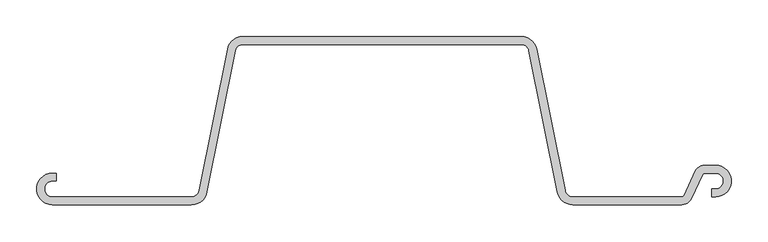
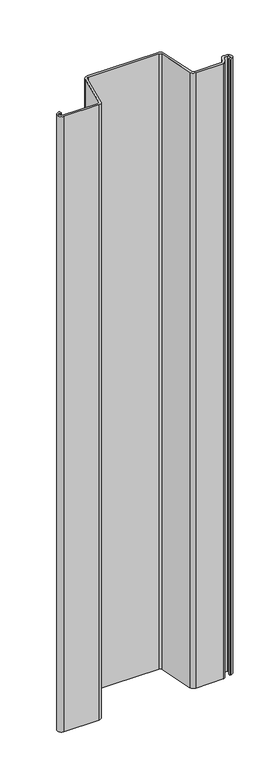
"""IFC4 building model written with IfcOpenShell, lengths in millimetres: proxy geometry, 鋼矢板10H型 : 鋼矢板10H型."""

from ifc_helpers import new_model, si_unit, point, frame, frame_2d, origin, place, context, project, spatial, polyline, circle_curve, trimmed, segment, composite_curve, outline, extrude, source, transform, mapped, element, save


def generic_models_7553901d(model_context):
    return source(origin(), model_context, "Body", "SweptSolid", [
        extrude(outline(composite_curve([segment(trimmed(circle_curve(frame_2d((409.1972607, -101.1142857)), 13.8857143), [point((421.7819917, -106.9826421))], [point((409.1972607, -115.0))], False, "CARTESIAN"), True, "CONTINUOUS"), segment(polyline([(409.1972607, -115.0), (260.2008232, -115.0)]), True, "CONTINUOUS"), segment(trimmed(circle_curve(frame_2d((260.2008232, -93.4)), 21.6), [point((260.2008232, -115.0))], [point((239.0202806, -97.6361085))], False, "CARTESIAN"), True, "CONTINUOUS"), segment(polyline([(239.0202806, -97.6361085), (200.3894481, 95.5180543)]), True, "CONTINUOUS"), segment(trimmed(circle_curve(frame_2d((189.7991768, 93.4)), 10.8), [point((200.3894481, 95.5180543))], [point((189.7991768, 104.2))], True, "CARTESIAN"), True, "CONTINUOUS"), segment(polyline([(189.7991768, 104.2), (-189.7991768, 104.2)]), True, "CONTINUOUS"), segment(trimmed(circle_curve(frame_2d((-189.7991768, 93.4)), 10.8), [point((-189.7991768, 104.2))], [point((-200.3894481, 95.5180543))], True, "CARTESIAN"), True, "CONTINUOUS"), segment(polyline([(-200.3894481, 95.5180543), (-239.0202806, -97.6361085)]), True, "CONTINUOUS"), segment(trimmed(circle_curve(frame_2d((-260.2008232, -93.4)), 21.6), [point((-239.0202806, -97.6361085))], [point((-260.2008232, -115.0))], False, "CARTESIAN"), True, "CONTINUOUS"), segment(polyline([(-260.2008232, -115.0), (-450.0, -115.0)]), True, "CONTINUOUS"), segment(trimmed(circle_curve(frame_2d((-450.0, -93.4)), 21.6), [point((-450.0, -115.0))], [point((-450.0, -71.8))], False, "CARTESIAN"), True, "CONTINUOUS"), segment(polyline([(-450.0, -71.8), (-445.0, -71.8), (-445.0, -82.6), (-450.0, -82.6)]), True, "CONTINUOUS"), segment(trimmed(circle_curve(frame_2d((-450.0, -93.4)), 10.8), [point((-450.0, -82.6))], [point((-450.0, -104.2))], True, "CARTESIAN"), True, "CONTINUOUS"), segment(polyline([(-450.0, -104.2), (-260.2008232, -104.2)]), True, "CONTINUOUS"), segment(trimmed(circle_curve(frame_2d((-260.2008232, -93.4)), 10.8), [point((-260.2008232, -104.2))], [point((-249.6105519, -95.5180543))], True, "CARTESIAN"), True, "CONTINUOUS"), segment(polyline([(-249.6105519, -95.5180543), (-210.9797194, 97.6361085)]), True, "CONTINUOUS"), segment(trimmed(circle_curve(frame_2d((-189.7991768, 93.4)), 21.6), [point((-210.9797194, 97.6361085))], [point((-189.7991768, 115.0))], False, "CARTESIAN"), True, "CONTINUOUS"), segment(polyline([(-189.7991768, 115.0), (189.7991768, 115.0)]), True, "CONTINUOUS"), segment(trimmed(circle_curve(frame_2d((189.7991768, 93.4)), 21.6), [point((189.7991768, 115.0))], [point((210.9797194, 97.6361085))], False, "CARTESIAN"), True, "CONTINUOUS"), segment(polyline([(210.9797194, 97.6361085), (249.6105519, -95.5180543)]), True, "CONTINUOUS"), segment(trimmed(circle_curve(frame_2d((260.2008232, -93.4)), 10.8), [point((249.6105519, -95.5180543))], [point((260.2008232, -104.2))], True, "CARTESIAN"), True, "CONTINUOUS"), segment(polyline([(260.2008232, -104.2), (409.1972607, -104.2)]), True, "CONTINUOUS"), segment(trimmed(circle_curve(frame_2d((409.1972607, -101.1142857)), 3.0857143), [point((409.1972607, -104.2))], [point((411.9938676, -102.4183649))], True, "CARTESIAN"), True, "CONTINUOUS"), segment(polyline([(411.9938676, -102.4183649), (427.569013, -69.0173579)]), True, "CONTINUOUS"), segment(trimmed(circle_curve(frame_2d((440.153744, -74.8857143)), 13.8857143), [point((427.569013, -69.0173579))], [point((440.153744, -61.0))], False, "CARTESIAN"), True, "CONTINUOUS"), segment(polyline([(440.153744, -61.0), (455.0, -61.0)]), True, "CONTINUOUS"), segment(trimmed(circle_curve(frame_2d((455.0, -82.6)), 21.6), [point((455.0, -61.0))], [point((455.0, -104.2))], False, "CARTESIAN"), True, "CONTINUOUS"), segment(polyline([(455.0, -104.2), (450.0, -104.2), (450.0, -93.4), (455.0, -93.4)]), True, "CONTINUOUS"), segment(trimmed(circle_curve(frame_2d((455.0, -82.6)), 10.8), [point((455.0, -93.4))], [point((455.0, -71.8))], True, "CARTESIAN"), True, "CONTINUOUS"), segment(polyline([(455.0, -71.8), (440.153744, -71.8)]), True, "CONTINUOUS"), segment(trimmed(circle_curve(frame_2d((440.153744, -74.8857143)), 3.0857143), [point((440.153744, -71.8))], [point((437.3571371, -73.5816351))], True, "CARTESIAN"), True, "CONTINUOUS"), segment(polyline([(437.3571371, -73.5816351), (421.7819917, -106.9826421)]), True, "CONTINUOUS")], self_intersect=False)), frame((0.0, 0.0, -3500.0), z_axis=(0.0, 0.0, 1.0), x_axis=(1.0, 0.0, 0.0)), (0.0, 0.0, 1.0), 3500.0),
    ])


if __name__ == "__main__":
    model = new_model("IFC4")
    model_context = context("Model", 3, world=origin())
    ifc_project = project(units=[si_unit("LENGTHUNIT", "METRE", prefix="MILLI")], contexts=[model_context])
    site = spatial("IfcSite", under=ifc_project)
    building = spatial("IfcBuilding", under=site)
    placement = place(None, origin())
    generic_models_shape = generic_models_7553901d(model_context)
    element("IfcBuildingElementProxy", 1, Name="鋼矢板10H型 : 鋼矢板10H型", ObjectType="鋼矢板10H型 : 鋼矢板10H型", at=placement, inside=building, context=model_context, shape_type="MappedRepresentation", body=[
        mapped(generic_models_shape, transform((0.0, 0.0, 0.0), x_axis=(1.0, 0.0, 0.0), y_axis=(0.0, 1.0, 0.0), z_axis=(0.0, 0.0, 1.0))),
    ])
    save(model, "model.ifc")
